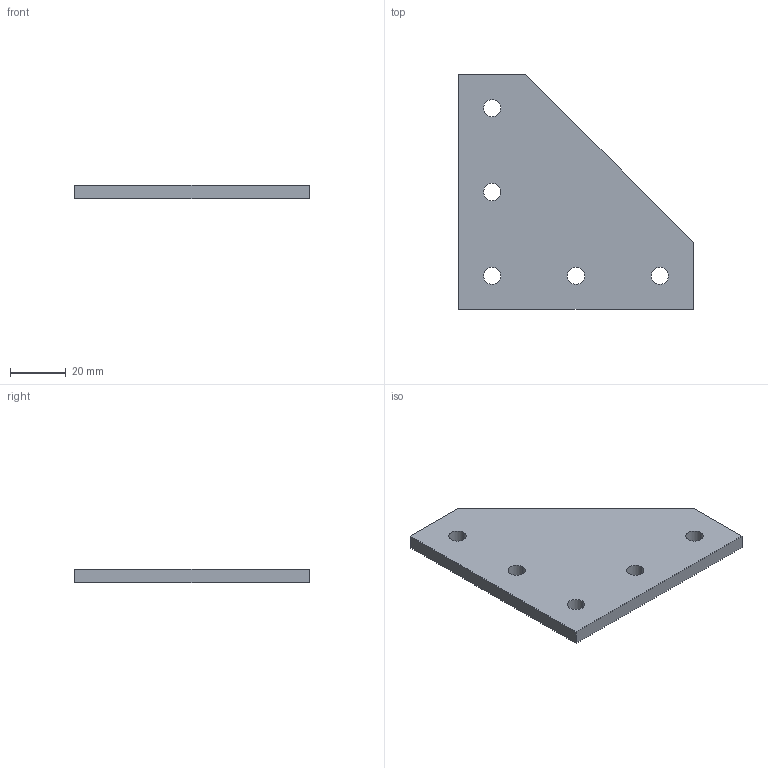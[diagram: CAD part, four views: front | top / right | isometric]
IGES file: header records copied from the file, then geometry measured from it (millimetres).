
Global section: file name: C:\Documents and Settings\Administrator\Desktop\Transfer Temp\bsf-30457.igs; native system: AutoDesk Inventor R2.0 ; preprocessor: AutoDesk Inventor Iges Exporter R2.0; author: No Author specified; organization: No Organization specified; date: 20011227.203847; units: millimetre
Bounding box: 84 x 84 x 5 mm (x, y, z)
Surface area: 12201.2 mm2 (no closed solid volume)
Topology: 0 solids, 0 shells, 17 faces, 90 edges, 90 vertices
Faces by surface type: bspline 17
